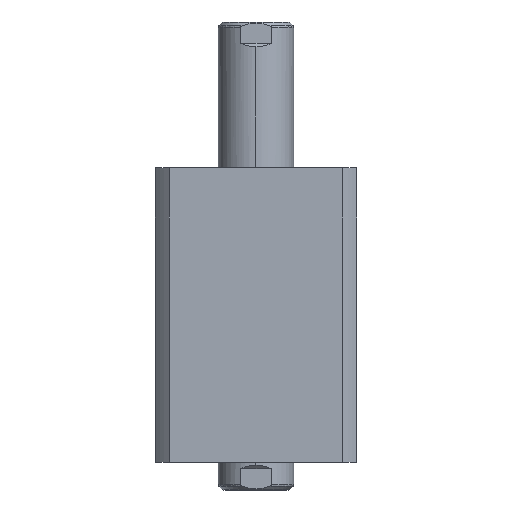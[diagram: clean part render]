
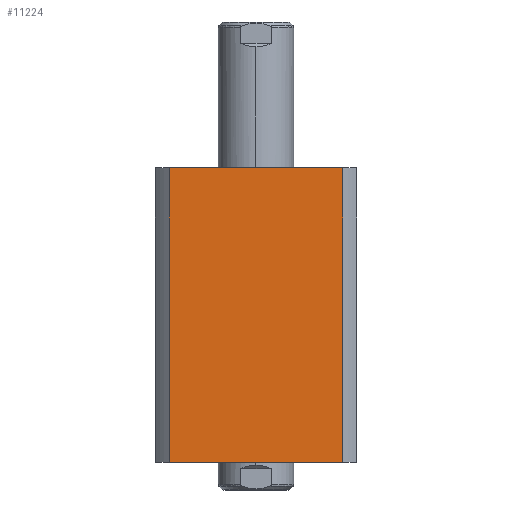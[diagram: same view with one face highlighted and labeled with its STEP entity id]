
A CAD part, left-side view. The second image highlights one B-rep face of the part: STEP entity #11224.
In plain terms, the highlighted planar face has unit normal (-1, 0, 0).
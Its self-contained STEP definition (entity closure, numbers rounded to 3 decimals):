
#126 = LINE ( 'NONE', #18239, #15731 ) ;
#221 = PLANE ( 'NONE',  #481 ) ;
#481 = AXIS2_PLACEMENT_3D ( 'NONE', #15922, #11682, #3164 ) ;
#676 = LINE ( 'NONE', #4927, #4010 ) ;
#1515 = LINE ( 'NONE', #13895, #16233 ) ;
#1599 = CARTESIAN_POINT ( 'NONE',  ( -47., 40.435, 137. ) ) ;
#1975 = ORIENTED_EDGE ( 'NONE', *, *, #5570, .T. ) ;
#2578 = CARTESIAN_POINT ( 'NONE',  ( -47., -40.435, 300. ) ) ;
#2627 = VERTEX_POINT ( 'NONE', #5467 ) ;
#3007 = CARTESIAN_POINT ( 'NONE',  ( -47., -40.435, 0. ) ) ;
#3164 = DIRECTION ( 'NONE',  ( 0., 1., 0. ) ) ;
#3936 = DIRECTION ( 'NONE',  ( 0., -1., 0. ) ) ;
#4010 = VECTOR ( 'NONE', #13459, 1000. ) ;
#4497 = VERTEX_POINT ( 'NONE', #1599 ) ;
#4585 = ORIENTED_EDGE ( 'NONE', *, *, #12857, .F. ) ;
#4927 = CARTESIAN_POINT ( 'NONE',  ( -47., 47., 0. ) ) ;
#5467 = CARTESIAN_POINT ( 'NONE',  ( -47., 40.435, 0. ) ) ;
#5570 = EDGE_CURVE ( 'NONE', #2627, #8174, #676, .T. ) ;
#5943 = VERTEX_POINT ( 'NONE', #11255 ) ;
#6401 = EDGE_LOOP ( 'NONE', ( #8191, #4585, #6942, #1975 ) ) ;
#6942 = ORIENTED_EDGE ( 'NONE', *, *, #18267, .F. ) ;
#8174 = VERTEX_POINT ( 'NONE', #3007 ) ;
#8191 = ORIENTED_EDGE ( 'NONE', *, *, #8453, .F. ) ;
#8453 = EDGE_CURVE ( 'NONE', #5943, #8174, #14475, .T. ) ;
#10698 = VECTOR ( 'NONE', #13965, 1000. ) ;
#11224 = ADVANCED_FACE ( 'NONE', ( #12893 ), #221, .F. ) ;
#11255 = CARTESIAN_POINT ( 'NONE',  ( -47., -40.435, 137. ) ) ;
#11682 = DIRECTION ( 'NONE',  ( 1., 0., 0. ) ) ;
#12857 = EDGE_CURVE ( 'NONE', #4497, #5943, #1515, .T. ) ;
#12893 = FACE_OUTER_BOUND ( 'NONE', #6401, .T. ) ;
#13459 = DIRECTION ( 'NONE',  ( 0., -1., 0. ) ) ;
#13895 = CARTESIAN_POINT ( 'NONE',  ( -47., 47., 137. ) ) ;
#13965 = DIRECTION ( 'NONE',  ( 0., 0., -1. ) ) ;
#14475 = LINE ( 'NONE', #2578, #10698 ) ;
#15363 = DIRECTION ( 'NONE',  ( 0., 0., 1. ) ) ;
#15731 = VECTOR ( 'NONE', #15363, 1000. ) ;
#15922 = CARTESIAN_POINT ( 'NONE',  ( -47., 47., 137. ) ) ;
#16233 = VECTOR ( 'NONE', #3936, 1000. ) ;
#18239 = CARTESIAN_POINT ( 'NONE',  ( -47., 40.435, 300. ) ) ;
#18267 = EDGE_CURVE ( 'NONE', #2627, #4497, #126, .T. ) ;
